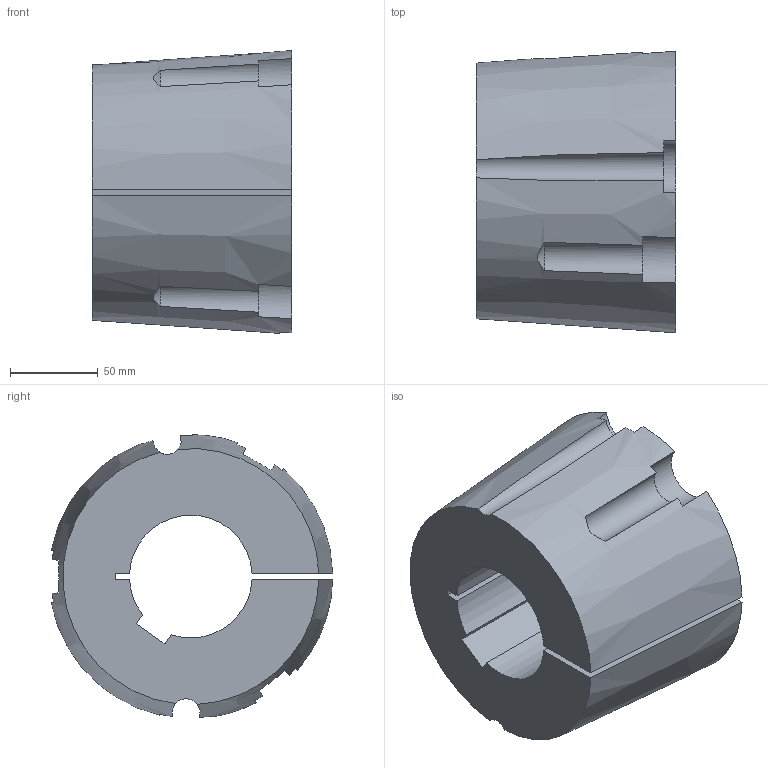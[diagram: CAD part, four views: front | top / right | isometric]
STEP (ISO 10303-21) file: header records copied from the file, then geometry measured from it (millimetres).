
FILE_DESCRIPTION( ( 'STEP AP203' ), '1' );
FILE_NAME( 'D:/export/antriebselemente/spannbuchsen_und_spannsaetze/taper-spannbuchsen_1008_bis_5050/taper-spannbuchsen_62251570Isometric_252.stp', '2018-12-11T11:11:35', ( '' ), ( '' ), ' ', 'PARTsolutions', ' ' );
FILE_SCHEMA( ( 'CONFIG_CONTROL_DESIGN' ) );
Length unit declared in the file: millimetre
Products named in the file (1): _taper-spannbuchsen_62251570
Bounding box: 114 x 160.6 x 161.35 mm (x, y, z)
Volume: 1585417.4 mm3; surface area: 125002.8 mm2
Topology: 1 solids, 1 shells, 34 faces, 96 edges, 64 vertices
Faces by surface type: plane 15, cylinder 13, cone 6
Entity records: 1314 total; most frequent: CARTESIAN_POINT 390, ORIENTED_EDGE 192, DIRECTION 186, EDGE_CURVE 96, AXIS2_PLACEMENT_3D 80, VERTEX_POINT 64, CIRCLE 45, ADVANCED_FACE 34
